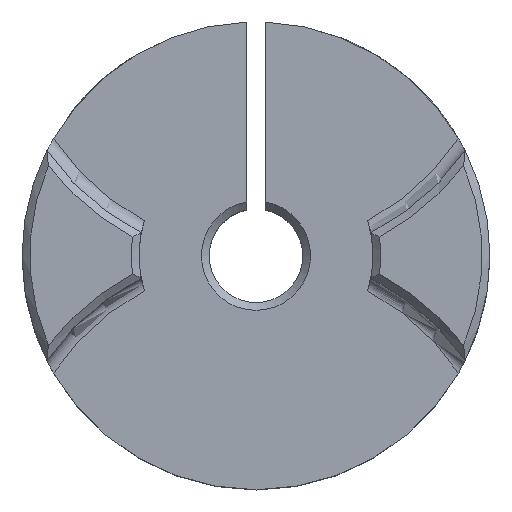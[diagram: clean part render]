
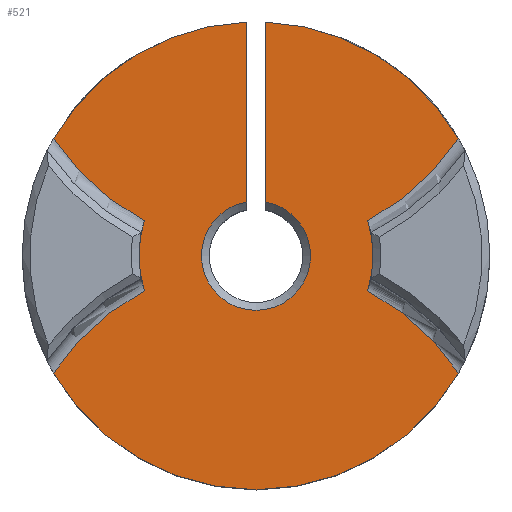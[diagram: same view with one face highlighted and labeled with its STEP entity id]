
A CAD part, top view. The second image highlights one B-rep face of the part: STEP entity #521.
In plain terms, the highlighted planar face has unit normal (0, 0, 1).
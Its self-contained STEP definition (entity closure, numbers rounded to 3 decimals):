
#48=PLANE('',#564);
#57=LINE('',#814,#73);
#58=LINE('',#828,#74);
#73=VECTOR('',#640,11.54);
#74=VECTOR('',#649,11.54);
#102=FACE_OUTER_BOUND('',#137,.T.);
#137=EDGE_LOOP('',(#378,#379,#380,#381,#382,#383,#384,#385,#386,#387,#388,
#389));
#174=CIRCLE('',#558,3.5);
#176=CIRCLE('',#562,15.5);
#178=CIRCLE('',#565,15.);
#179=CIRCLE('',#566,7.5);
#180=CIRCLE('',#567,15.5);
#181=CIRCLE('',#568,15.);
#182=CIRCLE('',#569,15.5);
#183=CIRCLE('',#570,7.5);
#184=CIRCLE('',#571,15.5);
#185=CIRCLE('',#572,15.);
#223=VERTEX_POINT('',#811);
#224=VERTEX_POINT('',#813);
#226=VERTEX_POINT('',#821);
#227=VERTEX_POINT('',#827);
#232=VERTEX_POINT('',#840);
#233=VERTEX_POINT('',#853);
#235=VERTEX_POINT('',#869);
#236=VERTEX_POINT('',#871);
#237=VERTEX_POINT('',#873);
#238=VERTEX_POINT('',#875);
#239=VERTEX_POINT('',#877);
#240=VERTEX_POINT('',#879);
#277=EDGE_CURVE('',#223,#224,#57,.T.);
#281=EDGE_CURVE('',#224,#226,#174,.T.);
#282=EDGE_CURVE('',#226,#227,#58,.T.);
#288=EDGE_CURVE('',#232,#233,#176,.T.);
#291=EDGE_CURVE('',#233,#223,#178,.T.);
#292=EDGE_CURVE('',#232,#235,#179,.T.);
#293=EDGE_CURVE('',#236,#235,#180,.T.);
#294=EDGE_CURVE('',#237,#236,#181,.T.);
#295=EDGE_CURVE('',#238,#237,#182,.T.);
#296=EDGE_CURVE('',#238,#239,#183,.T.);
#297=EDGE_CURVE('',#240,#239,#184,.T.);
#298=EDGE_CURVE('',#227,#240,#185,.T.);
#378=ORIENTED_EDGE('',*,*,#281,.F.);
#379=ORIENTED_EDGE('',*,*,#277,.F.);
#380=ORIENTED_EDGE('',*,*,#291,.F.);
#381=ORIENTED_EDGE('',*,*,#288,.F.);
#382=ORIENTED_EDGE('',*,*,#292,.T.);
#383=ORIENTED_EDGE('',*,*,#293,.F.);
#384=ORIENTED_EDGE('',*,*,#294,.F.);
#385=ORIENTED_EDGE('',*,*,#295,.F.);
#386=ORIENTED_EDGE('',*,*,#296,.T.);
#387=ORIENTED_EDGE('',*,*,#297,.F.);
#388=ORIENTED_EDGE('',*,*,#298,.F.);
#389=ORIENTED_EDGE('',*,*,#282,.F.);
#521=ADVANCED_FACE('',(#102),#48,.T.);
#558=AXIS2_PLACEMENT_3D('',#825,#645,#646);
#562=AXIS2_PLACEMENT_3D('',#854,#656,#657);
#564=AXIS2_PLACEMENT_3D('',#867,#660,#661);
#565=AXIS2_PLACEMENT_3D('',#868,#662,#663);
#566=AXIS2_PLACEMENT_3D('',#870,#664,#665);
#567=AXIS2_PLACEMENT_3D('',#872,#666,#667);
#568=AXIS2_PLACEMENT_3D('',#874,#668,#669);
#569=AXIS2_PLACEMENT_3D('',#876,#670,#671);
#570=AXIS2_PLACEMENT_3D('',#878,#672,#673);
#571=AXIS2_PLACEMENT_3D('',#880,#674,#675);
#572=AXIS2_PLACEMENT_3D('',#881,#676,#677);
#640=DIRECTION('',(0.,-1.,0.));
#645=DIRECTION('center_axis',(0.,0.,1.));
#646=DIRECTION('ref_axis',(-0.2,-0.98,0.));
#649=DIRECTION('',(0.,1.,0.));
#656=DIRECTION('center_axis',(0.,0.,-1.));
#657=DIRECTION('ref_axis',(-0.657,-0.754,0.));
#660=DIRECTION('center_axis',(0.,0.,1.));
#661=DIRECTION('ref_axis',(1.,0.,0.));
#662=DIRECTION('center_axis',(0.,0.,-1.));
#663=DIRECTION('ref_axis',(0.04,0.999,0.));
#664=DIRECTION('center_axis',(0.,0.,1.));
#665=DIRECTION('ref_axis',(0.981,-0.194,0.));
#666=DIRECTION('center_axis',(0.,0.,-1.));
#667=DIRECTION('ref_axis',(-0.657,0.754,0.));
#668=DIRECTION('center_axis',(0.,0.,-1.));
#669=DIRECTION('ref_axis',(0.04,0.999,0.));
#670=DIRECTION('center_axis',(0.,0.,-1.));
#671=DIRECTION('ref_axis',(0.657,0.754,0.));
#672=DIRECTION('center_axis',(0.,0.,1.));
#673=DIRECTION('ref_axis',(-0.981,0.194,0.));
#674=DIRECTION('center_axis',(0.,0.,-1.));
#675=DIRECTION('ref_axis',(0.657,-0.754,0.));
#676=DIRECTION('center_axis',(0.,0.,-1.));
#677=DIRECTION('ref_axis',(0.04,0.999,0.));
#811=CARTESIAN_POINT('',(-3.901,21.971,0.));
#813=CARTESIAN_POINT('',(-3.901,10.431,0.));
#814=CARTESIAN_POINT('',(-3.901,21.971,0.));
#821=CARTESIAN_POINT('',(-2.701,10.431,0.));
#825=CARTESIAN_POINT('Origin',(-3.301,6.983,0.));
#827=CARTESIAN_POINT('',(-2.701,21.971,0.));
#828=CARTESIAN_POINT('',(-2.701,9.922,0.));
#840=CARTESIAN_POINT('',(-10.455,9.233,0.));
#853=CARTESIAN_POINT('',(-16.278,14.506,0.));
#854=CARTESIAN_POINT('Origin',(-3.301,22.983,0.));
#867=CARTESIAN_POINT('Origin',(-3.301,8.722,0.));
#868=CARTESIAN_POINT('Origin',(-3.301,6.983,0.));
#869=CARTESIAN_POINT('',(-10.455,4.733,0.));
#870=CARTESIAN_POINT('Origin',(-3.301,6.983,0.));
#871=CARTESIAN_POINT('',(-16.278,-0.541,0.));
#872=CARTESIAN_POINT('Origin',(-3.301,-9.017,0.));
#873=CARTESIAN_POINT('',(9.676,-0.541,0.));
#874=CARTESIAN_POINT('Origin',(-3.301,6.983,0.));
#875=CARTESIAN_POINT('',(3.854,4.733,0.));
#876=CARTESIAN_POINT('Origin',(-3.301,-9.017,0.));
#877=CARTESIAN_POINT('',(3.854,9.233,0.));
#878=CARTESIAN_POINT('Origin',(-3.301,6.983,0.));
#879=CARTESIAN_POINT('',(9.676,14.506,0.));
#880=CARTESIAN_POINT('Origin',(-3.301,22.983,0.));
#881=CARTESIAN_POINT('Origin',(-3.301,6.983,0.));
